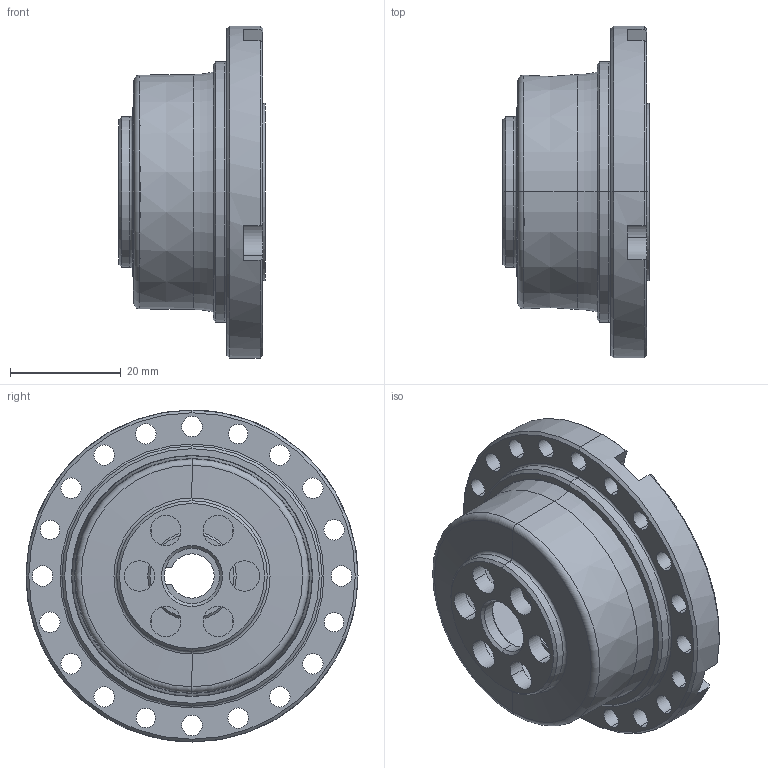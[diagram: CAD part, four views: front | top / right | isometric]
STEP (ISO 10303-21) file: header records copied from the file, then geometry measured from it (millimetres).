
FILE_DESCRIPTION (( 'STEP AP203' ), '1' );
FILE_NAME ('LCS-17-XXX-P-I.STEP', '2017-06-22T02:09:24', ( 'Windows 蚚誧' ), ( 'Users' ), 'SwSTEP 2.0', 'SolidWorks 2013', '' );
FILE_SCHEMA (( 'CONFIG_CONTROL_DESIGN' ));
Length unit declared in the file: millimetre
Products named in the file (9): LCS-17-XXX-P-I; LCS-17-XXX-P03; DB-17-I; RZC内外圈+钢球; 悵厥殤; RZC-17; LHS-17-XXX-P02; LCS-17-XXX-P01; 坋趼羞麥芛蹟隊M2 x 4_ISO 7046-1 - M2 x 4 - Z --- 4N
Assembly tree (11 placements, depth 3):
  LCS-17-XXX-P-I
    LCS-17-XXX-P03
    DB-17-I
    RZC-17
      RZC内外圈+钢球
      悵厥殤
    LHS-17-XXX-P02
    LCS-17-XXX-P01
    坋趼羞麥芛蹟隊M2 x 4_ISO 7046-1 - M2 x 4 - Z --- 4N  x4
Bounding box: 26.4 x 60 x 60 mm (x, y, z)
Volume: 19981.8 mm3; surface area: 26401.8 mm2
Topology: 10 solids, 10 shells, 574 faces, 1783 edges, 1141 vertices
Faces by surface type: cylinder 214, plane 169, cone 111, sphere 46, torus 34
Entity records: 18089 total; most frequent: CARTESIAN_POINT 4249, DIRECTION 2863, ORIENTED_EDGE 2722, EDGE_CURVE 1361, AXIS2_PLACEMENT_3D 1241, VERTEX_POINT 887, CIRCLE 775, EDGE_LOOP 548
